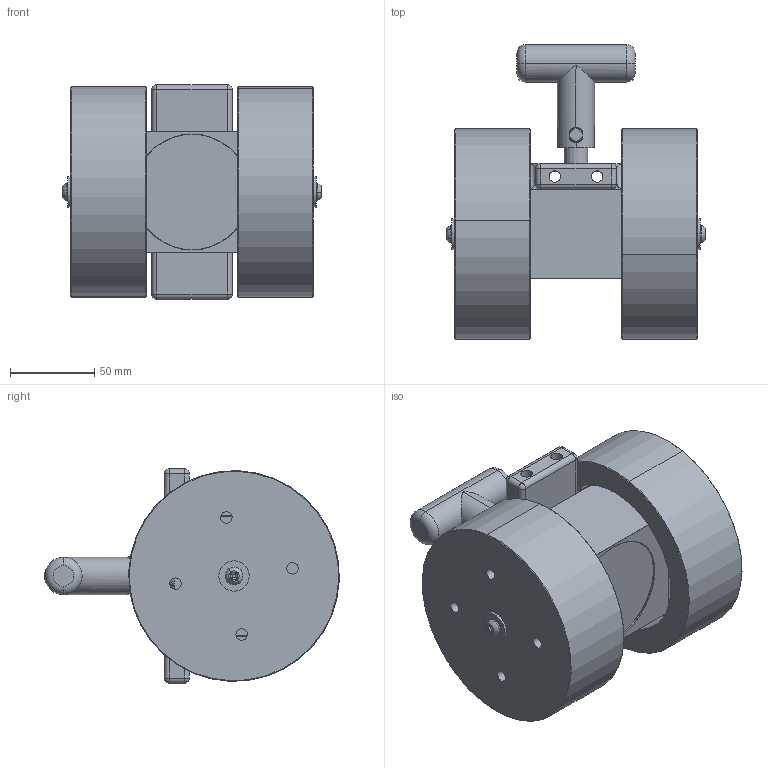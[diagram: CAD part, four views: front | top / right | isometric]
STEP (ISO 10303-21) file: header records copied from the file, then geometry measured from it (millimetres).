
FILE_DESCRIPTION (( 'STEP AP203' ), '1' );
FILE_NAME ('8000250.STEP', '2013-10-02T21:38:19', ( '' ), ( '' ), 'SwSTEP 2.0', 'SolidWorks 2010', '' );
FILE_SCHEMA (( 'CONFIG_CONTROL_DESIGN' ));
Length unit declared in the file: millimetre
Products named in the file (1): 8000250
Bounding box: 153.9 x 174.78 x 127 mm (x, y, z)
Surface area: 142226.7 mm2 (no closed solid volume)
Topology: 0 solids, 22 shells, 229 faces, 776 edges, 547 vertices
Faces by surface type: cylinder 88, plane 66, cone 35, torus 18, sphere 12, bspline 10
Entity records: 14378 total; most frequent: CARTESIAN_POINT 7738, DIRECTION 1440, ORIENTED_EDGE 1170, EDGE_CURVE 766, AXIS2_PLACEMENT_3D 595, VERTEX_POINT 547, CIRCLE 375, EDGE_LOOP 279
